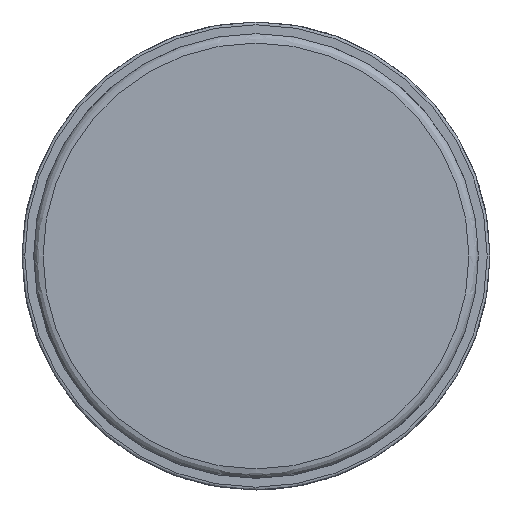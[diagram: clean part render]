
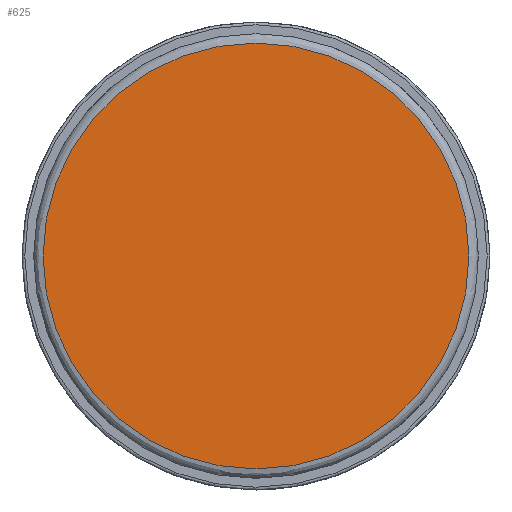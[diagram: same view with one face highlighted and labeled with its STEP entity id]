
A CAD part, left-side view. The second image highlights one B-rep face of the part: STEP entity #625.
In plain terms, the highlighted planar face has unit normal (-1, 0, 0).
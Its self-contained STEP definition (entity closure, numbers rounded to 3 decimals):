
#600=CARTESIAN_POINT('',(-528.136,-431.109,-57.));
#601=DIRECTION('',(-1.0,0.0,0.0));
#602=DIRECTION('',(0.0,-1.0,0.0));
#603=AXIS2_PLACEMENT_3D('',#600,#601,#602);
#604=PLANE('',#603);
#605=CARTESIAN_POINT('',(-528.136,-533.609,0.0));
#606=VERTEX_POINT('',#605);
#607=CARTESIAN_POINT('',(-528.136,-442.609,0.0));
#608=VERTEX_POINT('',#607);
#609=CARTESIAN_POINT('',(-528.136,-488.109,0.0));
#610=DIRECTION('',(-1.0,0.0,0.0));
#611=DIRECTION('',(0.0,-1.0,0.0));
#612=AXIS2_PLACEMENT_3D('',#609,#610,#611);
#613=CIRCLE('',#612,45.5);
#614=EDGE_CURVE('',#606,#608,#613,.T.);
#615=ORIENTED_EDGE('',*,*,#614,.T.);
#616=CARTESIAN_POINT('',(-528.136,-488.109,0.0));
#617=DIRECTION('',(-1.0,0.0,0.0));
#618=DIRECTION('',(0.0,-1.0,0.0));
#619=AXIS2_PLACEMENT_3D('',#616,#617,#618);
#620=CIRCLE('',#619,45.5);
#621=EDGE_CURVE('',#608,#606,#620,.T.);
#622=ORIENTED_EDGE('',*,*,#621,.T.);
#623=EDGE_LOOP('',(#615,#622));
#624=FACE_OUTER_BOUND('',#623,.T.);
#625=ADVANCED_FACE('',(#624),#604,.T.);
